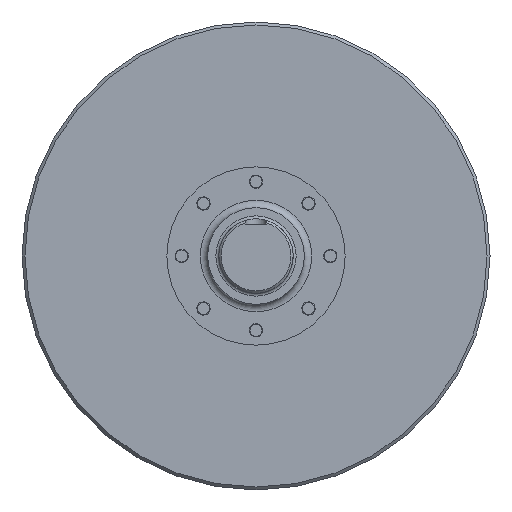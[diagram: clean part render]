
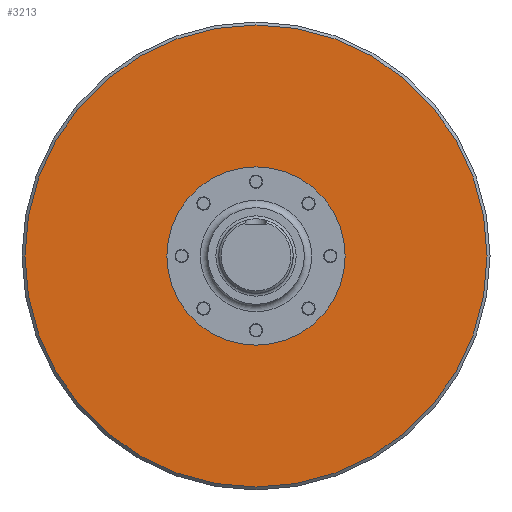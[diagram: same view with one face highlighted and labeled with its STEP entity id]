
A CAD part, left-side view. The second image highlights one B-rep face of the part: STEP entity #3213.
In plain terms, the highlighted planar face has unit normal (-1, 0, 0).
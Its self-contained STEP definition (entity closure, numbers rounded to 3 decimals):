
#531=FACE_BOUND('',#1033,.T.);
#736=FACE_OUTER_BOUND('',#1032,.T.);
#1032=EDGE_LOOP('',(#2502));
#1033=EDGE_LOOP('',(#2503));
#1214=CIRCLE('',#3364,60.);
#1275=CIRCLE('',#3541,155.5);
#1383=VERTEX_POINT('',#4733);
#1540=VERTEX_POINT('',#5419);
#1673=EDGE_CURVE('',#1383,#1383,#1214,.T.);
#1886=EDGE_CURVE('',#1540,#1540,#1275,.T.);
#2502=ORIENTED_EDGE('',*,*,#1886,.F.);
#2503=ORIENTED_EDGE('',*,*,#1673,.T.);
#2806=PLANE('',#3540);
#3213=ADVANCED_FACE('',(#736,#531),#2806,.F.);
#3364=AXIS2_PLACEMENT_3D('',#4734,#3815,#3816);
#3540=AXIS2_PLACEMENT_3D('',#5418,#4263,#4264);
#3541=AXIS2_PLACEMENT_3D('',#5420,#4265,#4266);
#3815=DIRECTION('center_axis',(1.,0.,0.));
#3816=DIRECTION('ref_axis',(0.,0.,1.));
#4263=DIRECTION('center_axis',(1.,0.,0.));
#4264=DIRECTION('ref_axis',(0.,1.,0.));
#4265=DIRECTION('center_axis',(1.,0.,0.));
#4266=DIRECTION('ref_axis',(0.,-1.,0.));
#4733=CARTESIAN_POINT('',(-36.,0.,60.));
#4734=CARTESIAN_POINT('Origin',(-36.,0.,
0.));
#5418=CARTESIAN_POINT('Origin',(-36.,210.485,0.));
#5419=CARTESIAN_POINT('',(-36.,155.5,0.));
#5420=CARTESIAN_POINT('Origin',(-36.,0.,0.));
